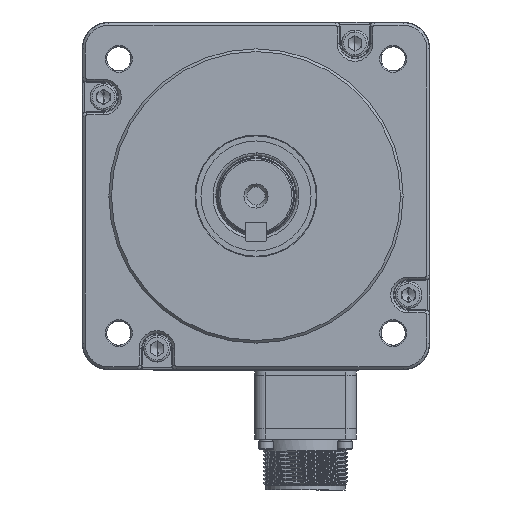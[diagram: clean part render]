
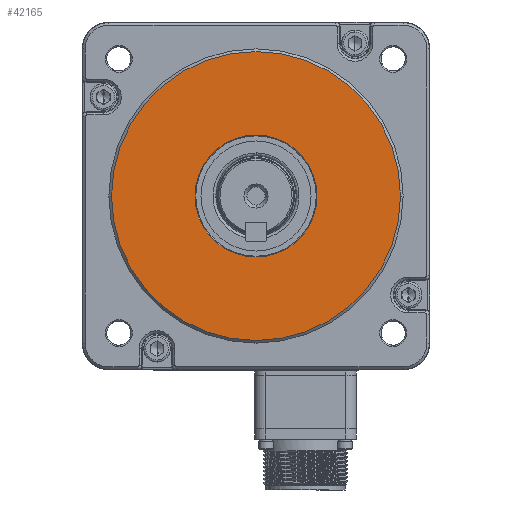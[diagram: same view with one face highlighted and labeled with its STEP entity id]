
A CAD part, left-side view. The second image highlights one B-rep face of the part: STEP entity #42165.
In plain terms, the highlighted planar face has unit normal (1, 0, 0).
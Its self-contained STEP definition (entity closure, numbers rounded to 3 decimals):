
#1644 = VERTEX_POINT ( 'NONE', #8581 ) ;
#2058 = AXIS2_PLACEMENT_3D ( 'NONE', #3112, #48210, #41137 ) ;
#2510 = CARTESIAN_POINT ( 'NONE',  ( 57., -54., 0. ) ) ;
#3112 = CARTESIAN_POINT ( 'NONE',  ( 57., 0., 0. ) ) ;
#4045 = EDGE_LOOP ( 'NONE', ( #39644, #19586 ) ) ;
#5082 = CARTESIAN_POINT ( 'NONE',  ( 57., 0., 0. ) ) ;
#5580 = CARTESIAN_POINT ( 'NONE',  ( 57., 0., 0. ) ) ;
#8581 = CARTESIAN_POINT ( 'NONE',  ( 57., 0., -22.789 ) ) ;
#9131 = CIRCLE ( 'NONE', #22090, 54. ) ;
#9133 = DIRECTION ( 'NONE',  ( 0., 0., 1. ) ) ;
#10072 = DIRECTION ( 'NONE',  ( -1., 0., 0. ) ) ;
#11805 = CARTESIAN_POINT ( 'NONE',  ( 57., 54., 0. ) ) ;
#12505 = DIRECTION ( 'NONE',  ( 1., 0., 0. ) ) ;
#12950 = DIRECTION ( 'NONE',  ( -1., 0., 0. ) ) ;
#13930 = DIRECTION ( 'NONE',  ( 1., 0., 0. ) ) ;
#14653 = VERTEX_POINT ( 'NONE', #2510 ) ;
#16829 = ORIENTED_EDGE ( 'NONE', *, *, #20588, .T. ) ;
#17997 = VERTEX_POINT ( 'NONE', #21377 ) ;
#18447 = CARTESIAN_POINT ( 'NONE',  ( 57., 0., 0. ) ) ;
#19203 = ORIENTED_EDGE ( 'NONE', *, *, #21981, .T. ) ;
#19586 = ORIENTED_EDGE ( 'NONE', *, *, #22464, .T. ) ;
#20588 = EDGE_CURVE ( 'NONE', #39653, #14653, #21230, .T. ) ;
#21230 = CIRCLE ( 'NONE', #24437, 54. ) ;
#21327 = AXIS2_PLACEMENT_3D ( 'NONE', #18447, #10072, #49294 ) ;
#21377 = CARTESIAN_POINT ( 'NONE',  ( 57., 0., 22.789 ) ) ;
#21981 = EDGE_CURVE ( 'NONE', #14653, #39653, #9131, .T. ) ;
#22090 = AXIS2_PLACEMENT_3D ( 'NONE', #43129, #12505, #46919 ) ;
#22464 = EDGE_CURVE ( 'NONE', #1644, #17997, #29414, .T. ) ;
#24437 = AXIS2_PLACEMENT_3D ( 'NONE', #5580, #13930, #44561 ) ;
#24738 = CIRCLE ( 'NONE', #33634, 22.789 ) ;
#24951 = EDGE_LOOP ( 'NONE', ( #16829, #19203 ) ) ;
#25936 = FACE_OUTER_BOUND ( 'NONE', #24951, .T. ) ;
#29414 = CIRCLE ( 'NONE', #21327, 22.789 ) ;
#33533 = FACE_BOUND ( 'NONE', #4045, .T. ) ;
#33634 = AXIS2_PLACEMENT_3D ( 'NONE', #5082, #12950, #9133 ) ;
#39644 = ORIENTED_EDGE ( 'NONE', *, *, #44750, .T. ) ;
#39653 = VERTEX_POINT ( 'NONE', #11805 ) ;
#41137 = DIRECTION ( 'NONE',  ( 0., 0., -1. ) ) ;
#41618 = PLANE ( 'NONE',  #2058 ) ;
#42165 = ADVANCED_FACE ( 'NONE', ( #33533, #25936 ), #41618, .T. ) ;
#43129 = CARTESIAN_POINT ( 'NONE',  ( 57., 0., 0. ) ) ;
#44561 = DIRECTION ( 'NONE',  ( 0., 1., 0. ) ) ;
#44750 = EDGE_CURVE ( 'NONE', #17997, #1644, #24738, .T. ) ;
#46919 = DIRECTION ( 'NONE',  ( 0., 1., 0. ) ) ;
#48210 = DIRECTION ( 'NONE',  ( 1., 0., 0. ) ) ;
#49294 = DIRECTION ( 'NONE',  ( 0., 0., 1. ) ) ;
